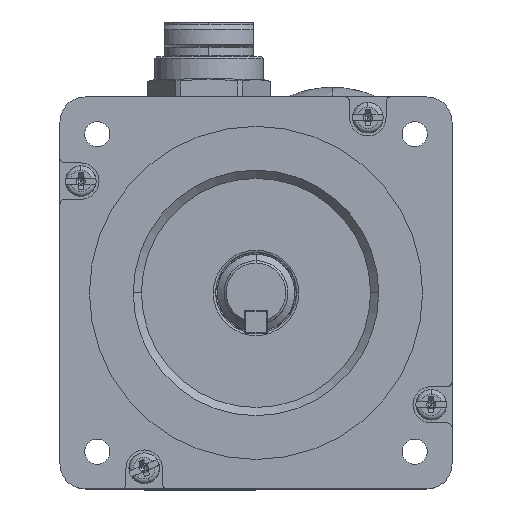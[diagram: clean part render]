
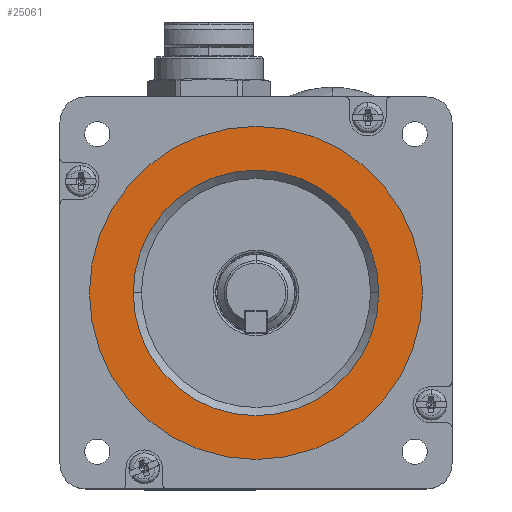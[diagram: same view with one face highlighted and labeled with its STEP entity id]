
A CAD part, top view. The second image highlights one B-rep face of the part: STEP entity #25061.
In plain terms, the highlighted planar face has unit normal (0, 0, 1).
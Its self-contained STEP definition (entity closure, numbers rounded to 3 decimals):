
#4212 = EDGE_CURVE ( 'NONE', #21783, #5166, #29427, .T. ) ;
#4368 = DIRECTION ( 'NONE',  ( 0., 0., 1. ) ) ;
#5166 = VERTEX_POINT ( 'NONE', #37329 ) ;
#5170 = FACE_BOUND ( 'NONE', #79561, .T. ) ;
#5345 = CARTESIAN_POINT ( 'NONE',  ( 70.2, 43.354, 219.616 ) ) ;
#7302 = AXIS2_PLACEMENT_3D ( 'NONE', #64726, #52126, #21122 ) ;
#9766 = DIRECTION ( 'NONE',  ( 0., 0., 1. ) ) ;
#9914 = CIRCLE ( 'NONE', #7302, 26.9 ) ;
#10497 = FACE_OUTER_BOUND ( 'NONE', #15606, .T. ) ;
#10604 = CIRCLE ( 'NONE', #53564, 26.9 ) ;
#10799 = CARTESIAN_POINT ( 'NONE',  ( 79.8, 43.354, 219.616 ) ) ;
#13862 = DIRECTION ( 'NONE',  ( 1., 0., 0. ) ) ;
#14560 = ORIENTED_EDGE ( 'NONE', *, *, #46675, .T. ) ;
#15606 = EDGE_LOOP ( 'NONE', ( #23696, #53657 ) ) ;
#19887 = ORIENTED_EDGE ( 'NONE', *, *, #58721, .T. ) ;
#20132 = CARTESIAN_POINT ( 'NONE',  ( 16.4, 43.354, 219.616 ) ) ;
#20513 = VERTEX_POINT ( 'NONE', #20132 ) ;
#21122 = DIRECTION ( 'NONE',  ( 1., 0., 0. ) ) ;
#21783 = VERTEX_POINT ( 'NONE', #10799 ) ;
#23139 = CARTESIAN_POINT ( 'NONE',  ( 43.3, 43.354, 219.616 ) ) ;
#23696 = ORIENTED_EDGE ( 'NONE', *, *, #4212, .T. ) ;
#25061 = ADVANCED_FACE ( 'NONE', ( #5170, #10497 ), #60169, .T. ) ;
#26771 = VERTEX_POINT ( 'NONE', #5345 ) ;
#27326 = AXIS2_PLACEMENT_3D ( 'NONE', #23139, #9766, #77888 ) ;
#29427 = CIRCLE ( 'NONE', #27326, 36.5 ) ;
#30516 = DIRECTION ( 'NONE',  ( 1., 0., 0. ) ) ;
#36640 = DIRECTION ( 'NONE',  ( 0., 0., 1. ) ) ;
#37329 = CARTESIAN_POINT ( 'NONE',  ( 6.8, 43.354, 219.616 ) ) ;
#37845 = CIRCLE ( 'NONE', #61267, 36.5 ) ;
#44802 = CARTESIAN_POINT ( 'NONE',  ( 43.3, 43.354, 219.616 ) ) ;
#46675 = EDGE_CURVE ( 'NONE', #20513, #26771, #9914, .T. ) ;
#47220 = AXIS2_PLACEMENT_3D ( 'NONE', #47978, #4368, #53260 ) ;
#47978 = CARTESIAN_POINT ( 'NONE',  ( 5.85, 5.904, 219.616 ) ) ;
#52126 = DIRECTION ( 'NONE',  ( 0., 0., -1. ) ) ;
#53260 = DIRECTION ( 'NONE',  ( 1., 0., 0. ) ) ;
#53564 = AXIS2_PLACEMENT_3D ( 'NONE', #44802, #69650, #13862 ) ;
#53657 = ORIENTED_EDGE ( 'NONE', *, *, #78922, .T. ) ;
#58721 = EDGE_CURVE ( 'NONE', #26771, #20513, #10604, .T. ) ;
#60169 = PLANE ( 'NONE',  #47220 ) ;
#61267 = AXIS2_PLACEMENT_3D ( 'NONE', #72573, #36640, #30516 ) ;
#64726 = CARTESIAN_POINT ( 'NONE',  ( 43.3, 43.354, 219.616 ) ) ;
#69650 = DIRECTION ( 'NONE',  ( 0., 0., -1. ) ) ;
#72573 = CARTESIAN_POINT ( 'NONE',  ( 43.3, 43.354, 219.616 ) ) ;
#77888 = DIRECTION ( 'NONE',  ( 1., 0., 0. ) ) ;
#78922 = EDGE_CURVE ( 'NONE', #5166, #21783, #37845, .T. ) ;
#79561 = EDGE_LOOP ( 'NONE', ( #19887, #14560 ) ) ;
